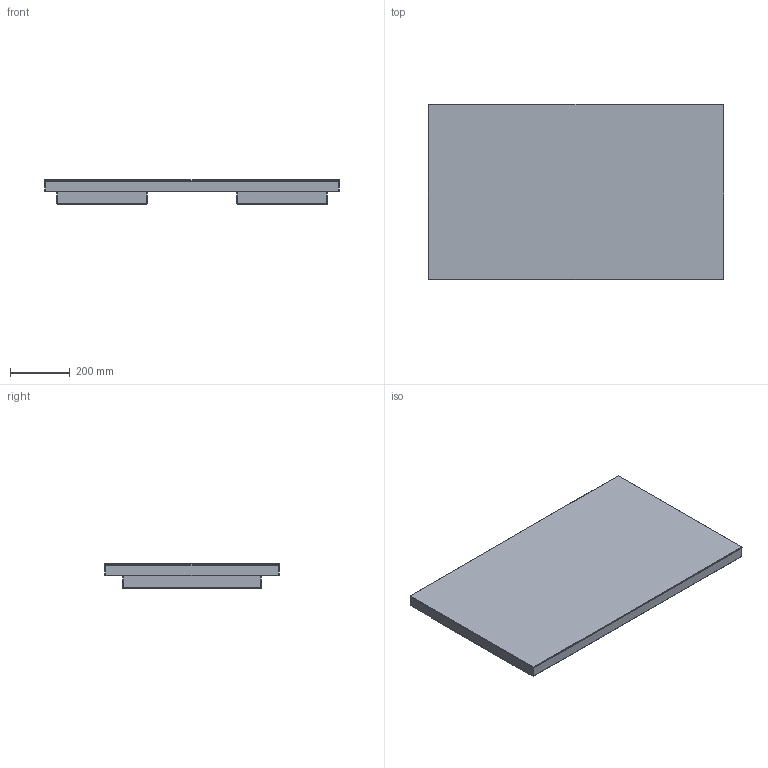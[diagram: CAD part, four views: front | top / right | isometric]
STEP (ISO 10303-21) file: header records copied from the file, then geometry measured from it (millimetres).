
FILE_DESCRIPTION(/* description */ (''),/* implementation_level */ '2;1');
FILE_NAME(/* name */ 'S7MTJV~R',/* time_stamp */ '2019-12-06T10:29:36+01:00',/* author */ (''),/* organization */ (''),/* preprocessor_version */ 'ST-DEVELOPER v16.5',/* originating_system */ '',/* authorisation */ '');
FILE_SCHEMA (('AUTOMOTIVE_DESIGN'));
Length unit declared in the file: millimetre
Products named in the file (2): Document; st43-004_R1.1 -- Display 43'' -- Rev.1.1
Assembly tree (1 placements, depth 2):
  Document
    st43-004_R1.1 -- Display 43'' -- Rev.1.1
Bounding box: 990.38 x 587.48 x 81 mm (x, y, z)
Volume: 34147994.6 mm3; surface area: 2564680.7 mm2
Topology: 2 solids, 2 shells, 187 faces, 381 edges, 237 vertices
Faces by surface type: bspline 120, plane 67
Entity records: 5274 total; most frequent: CARTESIAN_POINT 2877, ORIENTED_EDGE 760, EDGE_CURVE 380, VERTEX_POINT 236, EDGE_LOOP 226, ADVANCED_FACE 187, FACE_OUTER_BOUND 187, B_SPLINE_CURVE_WITH_KNOTS 101
